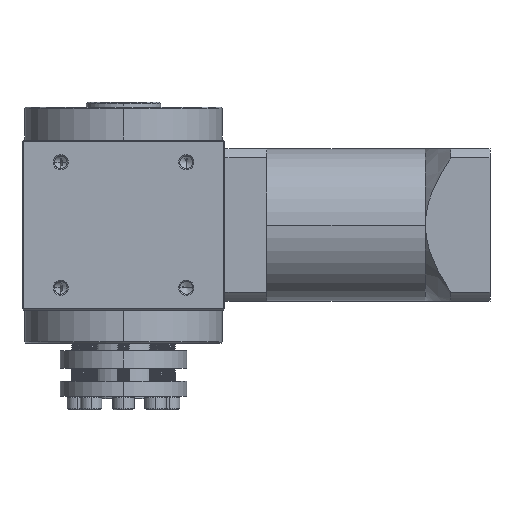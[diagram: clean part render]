
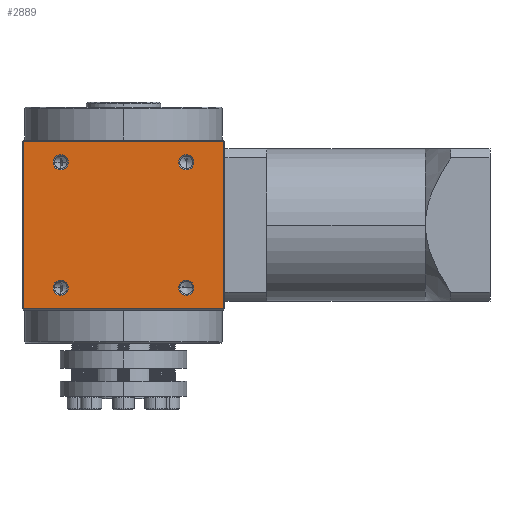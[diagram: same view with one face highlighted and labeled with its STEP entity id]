
A CAD part, left-side view. The second image highlights one B-rep face of the part: STEP entity #2889.
In plain terms, the highlighted planar face has unit normal (-1, 0, 0) as drawn and (0, 0, 1) by its records, which use the part's own axes.
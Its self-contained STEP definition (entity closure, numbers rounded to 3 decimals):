
#223 = ORIENTED_EDGE ( 'NONE', *, *, #4819, .F. ) ;
#812 = EDGE_CURVE ( 'NONE', #14867, #14547, #9453, .T. ) ;
#905 = CARTESIAN_POINT ( 'NONE',  ( 33., -39.5, 40. ) ) ;
#1087 = LINE ( 'NONE', #2885, #4218 ) ;
#1103 = CARTESIAN_POINT ( 'NONE',  ( 33., 39.5, 40. ) ) ;
#1278 = EDGE_CURVE ( 'NONE', #15674, #11182, #6098, .T. ) ;
#1313 = CARTESIAN_POINT ( 'NONE',  ( -27.75, 24.75, 40. ) ) ;
#1494 = VERTEX_POINT ( 'NONE', #13743 ) ;
#1546 = CARTESIAN_POINT ( 'NONE',  ( -21.75, 24.75, 40. ) ) ;
#1564 = DIRECTION ( 'NONE',  ( 1., 0., 0. ) ) ;
#1576 = DIRECTION ( 'NONE',  ( 0., 0., 1. ) ) ;
#2221 = EDGE_CURVE ( 'NONE', #8777, #1494, #17233, .T. ) ;
#2581 = AXIS2_PLACEMENT_3D ( 'NONE', #15366, #15346, #15324 ) ;
#2793 = DIRECTION ( 'NONE',  ( -1., 0., 0. ) ) ;
#2885 = CARTESIAN_POINT ( 'NONE',  ( 33.5, -39.5, 40. ) ) ;
#2889 = ADVANCED_FACE ( 'NONE', ( #8192, #7432, #7982, #11132, #15966 ), #11929, .F. ) ;
#2908 = EDGE_CURVE ( 'NONE', #8492, #11139, #15746, .T. ) ;
#2959 = EDGE_LOOP ( 'NONE', ( #16164, #4727 ) ) ;
#3108 = CARTESIAN_POINT ( 'NONE',  ( 24.75, -24.75, 40. ) ) ;
#3122 = DIRECTION ( 'NONE',  ( 1., 0., 0. ) ) ;
#3180 = DIRECTION ( 'NONE',  ( 0., 0., 1. ) ) ;
#3479 = ORIENTED_EDGE ( 'NONE', *, *, #5364, .F. ) ;
#4168 = CARTESIAN_POINT ( 'NONE',  ( -21.75, -24.75, 40. ) ) ;
#4218 = VECTOR ( 'NONE', #2793, 1000. ) ;
#4689 = EDGE_CURVE ( 'NONE', #11139, #8492, #9035, .T. ) ;
#4727 = ORIENTED_EDGE ( 'NONE', *, *, #2908, .F. ) ;
#4819 = EDGE_CURVE ( 'NONE', #1494, #8777, #6048, .T. ) ;
#5041 = AXIS2_PLACEMENT_3D ( 'NONE', #13949, #13910, #13894 ) ;
#5128 = AXIS2_PLACEMENT_3D ( 'NONE', #11432, #11416, #11403 ) ;
#5157 = AXIS2_PLACEMENT_3D ( 'NONE', #11289, #11276, #11269 ) ;
#5178 = VERTEX_POINT ( 'NONE', #9509 ) ;
#5296 = EDGE_LOOP ( 'NONE', ( #223, #6555 ) ) ;
#5335 = EDGE_LOOP ( 'NONE', ( #3479, #6286 ) ) ;
#5364 = EDGE_CURVE ( 'NONE', #11182, #15674, #6434, .T. ) ;
#5416 = CARTESIAN_POINT ( 'NONE',  ( -33., 40., 40. ) ) ;
#5443 = EDGE_LOOP ( 'NONE', ( #8043, #16126, #7304, #10729 ) ) ;
#5472 = EDGE_LOOP ( 'NONE', ( #12341, #14781 ) ) ;
#5514 = AXIS2_PLACEMENT_3D ( 'NONE', #14383, #14338, #14277 ) ;
#5529 = CIRCLE ( 'NONE', #5041, 3. ) ;
#5919 = DIRECTION ( 'NONE',  ( 0., -1., 0. ) ) ;
#5978 = CARTESIAN_POINT ( 'NONE',  ( 33., 40., 40. ) ) ;
#6048 = CIRCLE ( 'NONE', #5514, 3. ) ;
#6098 = CIRCLE ( 'NONE', #2581, 3. ) ;
#6127 = CARTESIAN_POINT ( 'NONE',  ( -33., 39.5, 40. ) ) ;
#6156 = DIRECTION ( 'NONE',  ( 0., 1., 0. ) ) ;
#6204 = LINE ( 'NONE', #16469, #9403 ) ;
#6286 = ORIENTED_EDGE ( 'NONE', *, *, #1278, .F. ) ;
#6384 = EDGE_CURVE ( 'NONE', #14547, #14867, #5529, .T. ) ;
#6434 = CIRCLE ( 'NONE', #17103, 3. ) ;
#6555 = ORIENTED_EDGE ( 'NONE', *, *, #2221, .F. ) ;
#6850 = CARTESIAN_POINT ( 'NONE',  ( 27.75, 24.75, 40. ) ) ;
#6961 = DIRECTION ( 'NONE',  ( -1., 0., 0. ) ) ;
#7138 = AXIS2_PLACEMENT_3D ( 'NONE', #12045, #1576, #1564 ) ;
#7295 = AXIS2_PLACEMENT_3D ( 'NONE', #16176, #16125, #16106 ) ;
#7304 = ORIENTED_EDGE ( 'NONE', *, *, #7730, .F. ) ;
#7411 = DIRECTION ( 'NONE',  ( 1., 0., 0. ) ) ;
#7432 = FACE_BOUND ( 'NONE', #5472, .T. ) ;
#7452 = DIRECTION ( 'NONE',  ( 0., 0., 1. ) ) ;
#7472 = CARTESIAN_POINT ( 'NONE',  ( 24.75, 24.75, 40. ) ) ;
#7730 = EDGE_CURVE ( 'NONE', #9501, #8117, #15377, .T. ) ;
#7770 = VERTEX_POINT ( 'NONE', #6127 ) ;
#7982 = FACE_BOUND ( 'NONE', #5335, .T. ) ;
#8043 = ORIENTED_EDGE ( 'NONE', *, *, #9240, .F. ) ;
#8066 = EDGE_CURVE ( 'NONE', #8117, #5178, #1087, .T. ) ;
#8097 = VECTOR ( 'NONE', #6156, 1000. ) ;
#8117 = VERTEX_POINT ( 'NONE', #905 ) ;
#8171 = VECTOR ( 'NONE', #5919, 1000. ) ;
#8192 = FACE_OUTER_BOUND ( 'NONE', #5443, .T. ) ;
#8492 = VERTEX_POINT ( 'NONE', #16462 ) ;
#8525 = LINE ( 'NONE', #5416, #8097 ) ;
#8777 = VERTEX_POINT ( 'NONE', #11866 ) ;
#9035 = CIRCLE ( 'NONE', #7295, 3. ) ;
#9240 = EDGE_CURVE ( 'NONE', #5178, #7770, #8525, .T. ) ;
#9403 = VECTOR ( 'NONE', #6961, 1000. ) ;
#9453 = CIRCLE ( 'NONE', #7138, 3. ) ;
#9501 = VERTEX_POINT ( 'NONE', #1103 ) ;
#9509 = CARTESIAN_POINT ( 'NONE',  ( -33., -39.5, 40. ) ) ;
#10729 = ORIENTED_EDGE ( 'NONE', *, *, #16983, .T. ) ;
#11132 = FACE_BOUND ( 'NONE', #5296, .T. ) ;
#11139 = VERTEX_POINT ( 'NONE', #4168 ) ;
#11182 = VERTEX_POINT ( 'NONE', #6850 ) ;
#11269 = DIRECTION ( 'NONE',  ( 1., 0., 0. ) ) ;
#11276 = DIRECTION ( 'NONE',  ( 0., 0., 1. ) ) ;
#11289 = CARTESIAN_POINT ( 'NONE',  ( -24.75, -24.75, 40. ) ) ;
#11305 = AXIS2_PLACEMENT_3D ( 'NONE', #3108, #3180, #3122 ) ;
#11403 = DIRECTION ( 'NONE',  ( -1., 0., 0. ) ) ;
#11416 = DIRECTION ( 'NONE',  ( 0., 0., -1. ) ) ;
#11432 = CARTESIAN_POINT ( 'NONE',  ( 33.5, 40., 40. ) ) ;
#11866 = CARTESIAN_POINT ( 'NONE',  ( 21.75, -24.75, 40. ) ) ;
#11929 = PLANE ( 'NONE',  #5128 ) ;
#12045 = CARTESIAN_POINT ( 'NONE',  ( -24.75, 24.75, 40. ) ) ;
#12341 = ORIENTED_EDGE ( 'NONE', *, *, #6384, .F. ) ;
#13743 = CARTESIAN_POINT ( 'NONE',  ( 27.75, -24.75, 40. ) ) ;
#13894 = DIRECTION ( 'NONE',  ( 1., 0., 0. ) ) ;
#13910 = DIRECTION ( 'NONE',  ( 0., 0., 1. ) ) ;
#13949 = CARTESIAN_POINT ( 'NONE',  ( -24.75, 24.75, 40. ) ) ;
#14277 = DIRECTION ( 'NONE',  ( 1., 0., 0. ) ) ;
#14338 = DIRECTION ( 'NONE',  ( 0., 0., 1. ) ) ;
#14383 = CARTESIAN_POINT ( 'NONE',  ( 24.75, -24.75, 40. ) ) ;
#14547 = VERTEX_POINT ( 'NONE', #1546 ) ;
#14781 = ORIENTED_EDGE ( 'NONE', *, *, #812, .F. ) ;
#14867 = VERTEX_POINT ( 'NONE', #1313 ) ;
#14993 = CARTESIAN_POINT ( 'NONE',  ( 21.75, 24.75, 40. ) ) ;
#15324 = DIRECTION ( 'NONE',  ( 1., 0., 0. ) ) ;
#15346 = DIRECTION ( 'NONE',  ( 0., 0., 1. ) ) ;
#15366 = CARTESIAN_POINT ( 'NONE',  ( 24.75, 24.75, 40. ) ) ;
#15377 = LINE ( 'NONE', #5978, #8171 ) ;
#15674 = VERTEX_POINT ( 'NONE', #14993 ) ;
#15746 = CIRCLE ( 'NONE', #5157, 3. ) ;
#15966 = FACE_BOUND ( 'NONE', #2959, .T. ) ;
#16106 = DIRECTION ( 'NONE',  ( 1., 0., 0. ) ) ;
#16125 = DIRECTION ( 'NONE',  ( 0., 0., 1. ) ) ;
#16126 = ORIENTED_EDGE ( 'NONE', *, *, #8066, .F. ) ;
#16164 = ORIENTED_EDGE ( 'NONE', *, *, #4689, .F. ) ;
#16176 = CARTESIAN_POINT ( 'NONE',  ( -24.75, -24.75, 40. ) ) ;
#16462 = CARTESIAN_POINT ( 'NONE',  ( -27.75, -24.75, 40. ) ) ;
#16469 = CARTESIAN_POINT ( 'NONE',  ( 33.5, 39.5, 40. ) ) ;
#16983 = EDGE_CURVE ( 'NONE', #9501, #7770, #6204, .T. ) ;
#17103 = AXIS2_PLACEMENT_3D ( 'NONE', #7472, #7452, #7411 ) ;
#17233 = CIRCLE ( 'NONE', #11305, 3. ) ;
